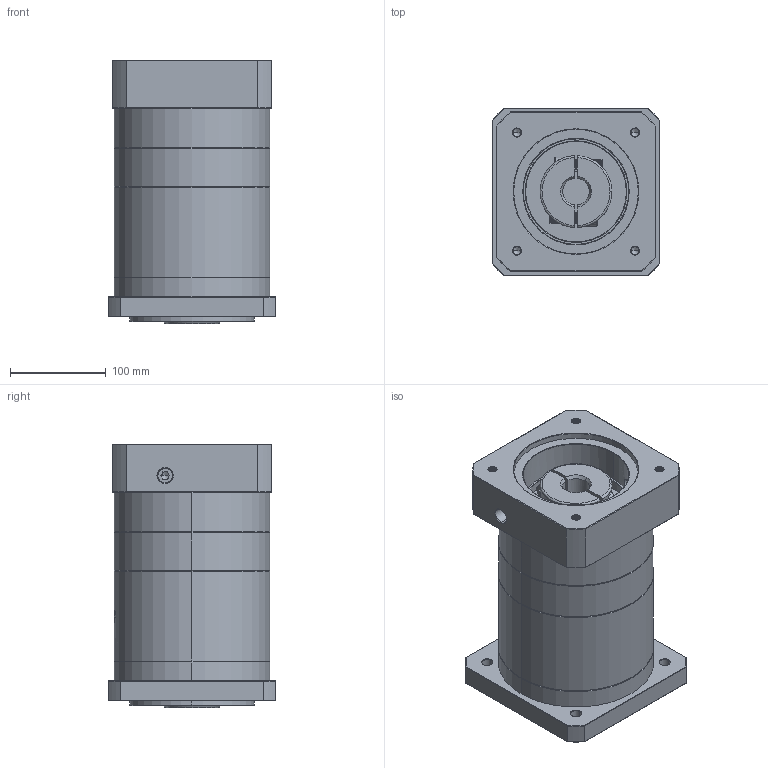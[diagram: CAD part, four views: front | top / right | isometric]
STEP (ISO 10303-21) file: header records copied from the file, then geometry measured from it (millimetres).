
FILE_DESCRIPTION (( 'STEP AP214' ), '1' );
FILE_NAME ('ZF160A-K35-L3-P2-28-130-174-M10.step', '2023-09-03T07:03:56', ( '' ), ( '' ), 'SwSTEP 2.0', 'SolidWorks 2016', '' );
FILE_SCHEMA (( 'AUTOMOTIVE_DESIGN' ));
Length unit declared in the file: millimetre
Products named in the file (1): ZF160A-K35-L3-P2-28-130-174-M10
Bounding box: 175 x 175 x 274.2 mm (x, y, z)
Volume: 5566379.9 mm3; surface area: 363698.4 mm2
Topology: 6 solids, 6 shells, 2150 faces, 5817 edges, 3771 vertices
Faces by surface type: plane 1010, bspline 404, cylinder 394, cone 322, torus 20
Entity records: 119096 total; most frequent: CARTESIAN_POINT 46318, ORIENTED_EDGE 11578, DIRECTION 8473, EDGE_CURVE 5789, VERTEX_POINT 3771, LINE 3017, VECTOR 3017, AXIS2_PLACEMENT_3D 2728
